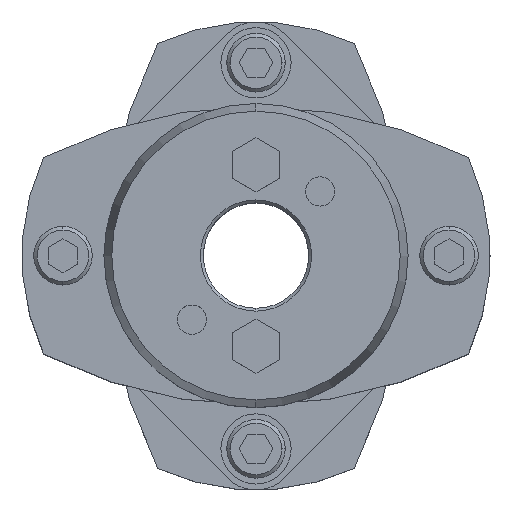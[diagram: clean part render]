
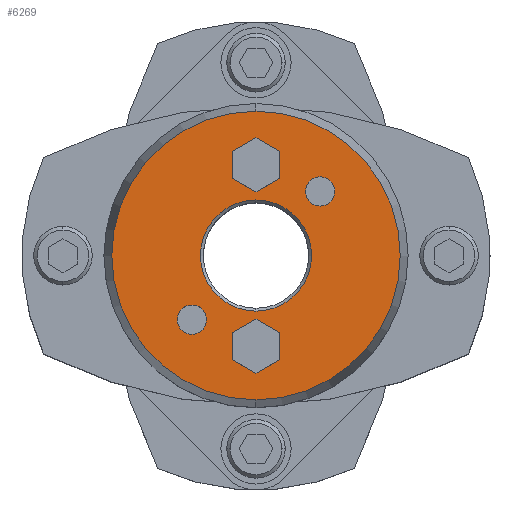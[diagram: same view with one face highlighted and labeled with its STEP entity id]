
A CAD part, top view. The second image highlights one B-rep face of the part: STEP entity #6269.
In plain terms, the highlighted planar face has unit normal (0, 0, 1).
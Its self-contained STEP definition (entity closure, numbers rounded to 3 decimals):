
#1677=CARTESIAN_POINT('',(0.,9.5,45.25));
#1678=VERTEX_POINT('',#1677);
#1694=CARTESIAN_POINT('',(0.,-9.5,45.25));
#1695=VERTEX_POINT('',#1694);
#1702=CARTESIAN_POINT('',(0.,0.,45.25));
#1703=DIRECTION('',(0.0,0.0,1.0));
#1704=DIRECTION('',(0.0,1.0,0.0));
#1705=AXIS2_PLACEMENT_3D('',#1702,#1703,#1704);
#1706=CIRCLE('',#1705,9.5);
#1707=EDGE_CURVE('',#1695,#1678,#1706,.T.);
#1865=CARTESIAN_POINT('',(0.,-24.66,45.25));
#1866=VERTEX_POINT('',#1865);
#1873=CARTESIAN_POINT('',(0.,24.66,45.25));
#1874=VERTEX_POINT('',#1873);
#1875=CARTESIAN_POINT('',(0.,0.,45.25));
#1876=DIRECTION('',(0.0,0.0,-1.0));
#1877=DIRECTION('',(0.0,-1.0,0.0));
#1878=AXIS2_PLACEMENT_3D('',#1875,#1876,#1877);
#1879=CIRCLE('',#1878,24.66);
#1880=EDGE_CURVE('',#1866,#1874,#1879,.T.);
#1975=CARTESIAN_POINT('',(10.96,13.46,45.25));
#1976=VERTEX_POINT('',#1975);
#1992=CARTESIAN_POINT('',(10.96,8.46,45.25));
#1993=VERTEX_POINT('',#1992);
#2000=CARTESIAN_POINT('',(10.96,10.96,45.25));
#2001=DIRECTION('',(0.0,0.0,-1.0));
#2002=DIRECTION('',(0.0,1.0,0.0));
#2003=AXIS2_PLACEMENT_3D('',#2000,#2001,#2002);
#2004=CIRCLE('',#2003,2.5);
#2005=EDGE_CURVE('',#1976,#1993,#2004,.T.);
#2017=CARTESIAN_POINT('',(-10.96,-8.46,45.25));
#2018=VERTEX_POINT('',#2017);
#2034=CARTESIAN_POINT('',(-10.96,-13.46,45.25));
#2035=VERTEX_POINT('',#2034);
#2042=CARTESIAN_POINT('',(-10.96,-10.96,45.25));
#2043=DIRECTION('',(0.0,0.0,-1.0));
#2044=DIRECTION('',(0.0,1.0,0.0));
#2045=AXIS2_PLACEMENT_3D('',#2042,#2043,#2044);
#2046=CIRCLE('',#2045,2.5);
#2047=EDGE_CURVE('',#2018,#2035,#2046,.T.);
#5513=CARTESIAN_POINT('',(0.,-10.881,45.25));
#5514=VERTEX_POINT('',#5513);
#5521=CARTESIAN_POINT('',(-4.,-13.191,45.25));
#5522=VERTEX_POINT('',#5521);
#5523=CARTESIAN_POINT('',(-4.,-13.191,45.25));
#5524=DIRECTION('',(0.866,0.5,0.0));
#5525=VECTOR('',#5524,4.619);
#5526=LINE('',#5523,#5525);
#5527=EDGE_CURVE('',#5522,#5514,#5526,.T.);
#5551=CARTESIAN_POINT('',(4.,-13.191,45.25));
#5552=VERTEX_POINT('',#5551);
#5559=CARTESIAN_POINT('',(0.,-10.881,45.25));
#5560=DIRECTION('',(0.866,-0.5,0.0));
#5561=VECTOR('',#5560,4.619);
#5562=LINE('',#5559,#5561);
#5563=EDGE_CURVE('',#5514,#5552,#5562,.T.);
#5582=CARTESIAN_POINT('',(4.,-17.809,45.25));
#5583=VERTEX_POINT('',#5582);
#5590=CARTESIAN_POINT('',(4.,-13.191,45.25));
#5591=DIRECTION('',(0.0,-1.0,0.0));
#5592=VECTOR('',#5591,4.619);
#5593=LINE('',#5590,#5592);
#5594=EDGE_CURVE('',#5552,#5583,#5593,.T.);
#5613=CARTESIAN_POINT('',(0.,-20.119,45.25));
#5614=VERTEX_POINT('',#5613);
#5621=CARTESIAN_POINT('',(4.,-17.809,45.25));
#5622=DIRECTION('',(-0.866,-0.5,0.0));
#5623=VECTOR('',#5622,4.619);
#5624=LINE('',#5621,#5623);
#5625=EDGE_CURVE('',#5583,#5614,#5624,.T.);
#5644=CARTESIAN_POINT('',(-4.,-17.809,45.25));
#5645=VERTEX_POINT('',#5644);
#5652=CARTESIAN_POINT('',(0.,-20.119,45.25));
#5653=DIRECTION('',(-0.866,0.5,0.0));
#5654=VECTOR('',#5653,4.619);
#5655=LINE('',#5652,#5654);
#5656=EDGE_CURVE('',#5614,#5645,#5655,.T.);
#5674=CARTESIAN_POINT('',(-4.,-17.809,45.25));
#5675=DIRECTION('',(0.0,1.0,0.0));
#5676=VECTOR('',#5675,4.619);
#5677=LINE('',#5674,#5676);
#5678=EDGE_CURVE('',#5645,#5522,#5677,.T.);
#5713=CARTESIAN_POINT('',(0.,20.119,45.25));
#5714=VERTEX_POINT('',#5713);
#5721=CARTESIAN_POINT('',(-4.,17.809,45.25));
#5722=VERTEX_POINT('',#5721);
#5723=CARTESIAN_POINT('',(-4.,17.809,45.25));
#5724=DIRECTION('',(0.866,0.5,0.0));
#5725=VECTOR('',#5724,4.619);
#5726=LINE('',#5723,#5725);
#5727=EDGE_CURVE('',#5722,#5714,#5726,.T.);
#5751=CARTESIAN_POINT('',(4.,17.809,45.25));
#5752=VERTEX_POINT('',#5751);
#5759=CARTESIAN_POINT('',(0.,20.119,45.25));
#5760=DIRECTION('',(0.866,-0.5,0.0));
#5761=VECTOR('',#5760,4.619);
#5762=LINE('',#5759,#5761);
#5763=EDGE_CURVE('',#5714,#5752,#5762,.T.);
#5782=CARTESIAN_POINT('',(4.,13.191,45.25));
#5783=VERTEX_POINT('',#5782);
#5790=CARTESIAN_POINT('',(4.,17.809,45.25));
#5791=DIRECTION('',(0.0,-1.0,0.0));
#5792=VECTOR('',#5791,4.619);
#5793=LINE('',#5790,#5792);
#5794=EDGE_CURVE('',#5752,#5783,#5793,.T.);
#5813=CARTESIAN_POINT('',(0.,10.881,45.25));
#5814=VERTEX_POINT('',#5813);
#5821=CARTESIAN_POINT('',(4.,13.191,45.25));
#5822=DIRECTION('',(-0.866,-0.5,0.0));
#5823=VECTOR('',#5822,4.619);
#5824=LINE('',#5821,#5823);
#5825=EDGE_CURVE('',#5783,#5814,#5824,.T.);
#5844=CARTESIAN_POINT('',(-4.,13.191,45.25));
#5845=VERTEX_POINT('',#5844);
#5852=CARTESIAN_POINT('',(0.,10.881,45.25));
#5853=DIRECTION('',(-0.866,0.5,0.0));
#5854=VECTOR('',#5853,4.619);
#5855=LINE('',#5852,#5854);
#5856=EDGE_CURVE('',#5814,#5845,#5855,.T.);
#5874=CARTESIAN_POINT('',(-4.,13.191,45.25));
#5875=DIRECTION('',(0.0,1.0,0.0));
#5876=VECTOR('',#5875,4.619);
#5877=LINE('',#5874,#5876);
#5878=EDGE_CURVE('',#5845,#5722,#5877,.T.);
#5904=CARTESIAN_POINT('',(-10.96,-10.96,45.25));
#5905=DIRECTION('',(0.0,0.0,-1.0));
#5906=DIRECTION('',(0.0,1.0,0.0));
#5907=AXIS2_PLACEMENT_3D('',#5904,#5905,#5906);
#5908=CIRCLE('',#5907,2.5);
#5909=EDGE_CURVE('',#2035,#2018,#5908,.T.);
#5938=CARTESIAN_POINT('',(10.96,10.96,45.25));
#5939=DIRECTION('',(0.0,0.0,-1.0));
#5940=DIRECTION('',(0.0,1.0,0.0));
#5941=AXIS2_PLACEMENT_3D('',#5938,#5939,#5940);
#5942=CIRCLE('',#5941,2.5);
#5943=EDGE_CURVE('',#1993,#1976,#5942,.T.);
#6216=CARTESIAN_POINT('',(0.,0.,45.25));
#6217=DIRECTION('',(0.0,0.0,-1.0));
#6218=DIRECTION('',(0.0,-1.0,0.0));
#6219=AXIS2_PLACEMENT_3D('',#6216,#6217,#6218);
#6220=CIRCLE('',#6219,24.66);
#6221=EDGE_CURVE('',#1874,#1866,#6220,.T.);
#6226=CARTESIAN_POINT('',(0.,2.364,45.25));
#6227=DIRECTION('',(0.0,0.0,1.0));
#6228=DIRECTION('',(0.0,1.0,0.0));
#6229=AXIS2_PLACEMENT_3D('',#6226,#6227,#6228);
#6230=PLANE('',#6229);
#6231=ORIENTED_EDGE('',*,*,#6221,.F.);
#6232=ORIENTED_EDGE('',*,*,#1880,.F.);
#6233=EDGE_LOOP('',(#6231,#6232));
#6234=FACE_OUTER_BOUND('',#6233,.T.);
#6235=ORIENTED_EDGE('',*,*,#5527,.T.);
#6236=ORIENTED_EDGE('',*,*,#5563,.T.);
#6237=ORIENTED_EDGE('',*,*,#5594,.T.);
#6238=ORIENTED_EDGE('',*,*,#5625,.T.);
#6239=ORIENTED_EDGE('',*,*,#5656,.T.);
#6240=ORIENTED_EDGE('',*,*,#5678,.T.);
#6241=EDGE_LOOP('',(#6235,#6236,#6237,#6238,#6239,#6240));
#6242=FACE_BOUND('',#6241,.T.);
#6243=ORIENTED_EDGE('',*,*,#5727,.T.);
#6244=ORIENTED_EDGE('',*,*,#5763,.T.);
#6245=ORIENTED_EDGE('',*,*,#5794,.T.);
#6246=ORIENTED_EDGE('',*,*,#5825,.T.);
#6247=ORIENTED_EDGE('',*,*,#5856,.T.);
#6248=ORIENTED_EDGE('',*,*,#5878,.T.);
#6249=EDGE_LOOP('',(#6243,#6244,#6245,#6246,#6247,#6248));
#6250=FACE_BOUND('',#6249,.T.);
#6251=ORIENTED_EDGE('',*,*,#2047,.T.);
#6252=ORIENTED_EDGE('',*,*,#5909,.T.);
#6253=EDGE_LOOP('',(#6251,#6252));
#6254=FACE_BOUND('',#6253,.T.);
#6255=ORIENTED_EDGE('',*,*,#2005,.T.);
#6256=ORIENTED_EDGE('',*,*,#5943,.T.);
#6257=EDGE_LOOP('',(#6255,#6256));
#6258=FACE_BOUND('',#6257,.T.);
#6259=ORIENTED_EDGE('',*,*,#1707,.F.);
#6260=CARTESIAN_POINT('',(0.,0.,45.25));
#6261=DIRECTION('',(0.0,0.0,1.0));
#6262=DIRECTION('',(0.0,1.0,0.0));
#6263=AXIS2_PLACEMENT_3D('',#6260,#6261,#6262);
#6264=CIRCLE('',#6263,9.5);
#6265=EDGE_CURVE('',#1678,#1695,#6264,.T.);
#6266=ORIENTED_EDGE('',*,*,#6265,.F.);
#6267=EDGE_LOOP('',(#6259,#6266));
#6268=FACE_BOUND('',#6267,.T.);
#6269=ADVANCED_FACE('',(#6234,#6242,#6250,#6254,#6258,#6268),#6230,.T.);
